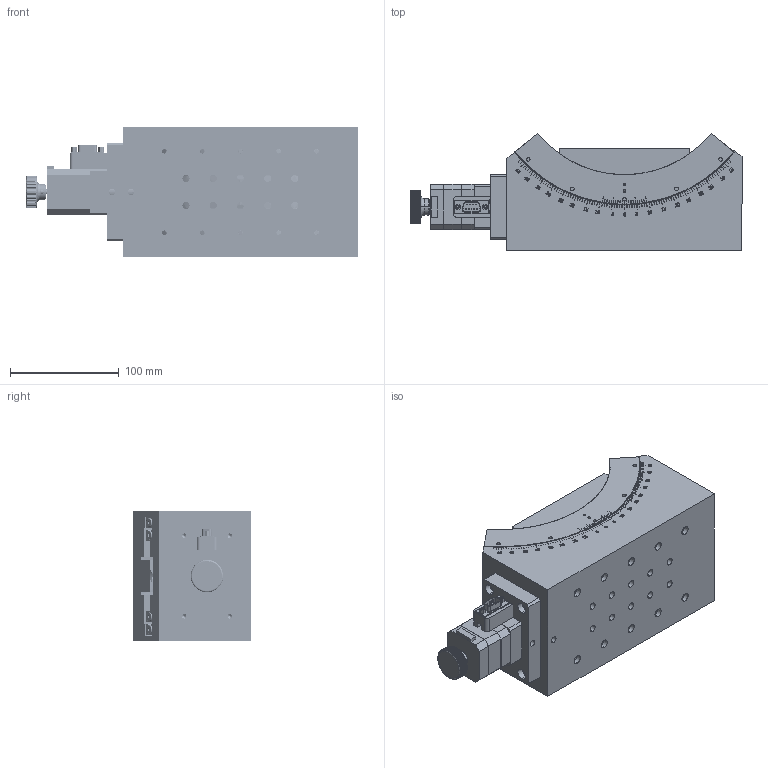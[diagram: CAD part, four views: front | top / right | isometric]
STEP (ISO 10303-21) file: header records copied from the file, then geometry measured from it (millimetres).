
FILE_DESCRIPTION (( 'STEP AP203' ), '1' );
FILE_NAME ('PT-GD216×°Åä.STEP', '2025-09-16T07:55:54', ( '' ), ( '' ), 'SwSTEP 2.0', 'SolidWorks 2023', '' );
FILE_SCHEMA (( 'CONFIG_CONTROL_DESIGN' ));
Length unit declared in the file: millimetre
Products named in the file (20): PT-GD216-03电机座连接板X; 联轴器26-20-5-5; PT-SD216-02台面; PT-GD216装配; PT-SD216-07导轨左; SST43D2046; PT-SD216-08导轨右; PT-SD216-10背母; PT-SD216-01底座; 9针座; PT-SD216-05涡杆; PDV-42电机手轮; PT-SD216-02台面固定环; GB／T 276-94[深沟球轴承629-2Z]; 涡轮250-1; PT-SD216-13轴承座; MVR3螺钉; GB／T 70．1-2000[内六角圆柱头螺钉M3×16]; 9针座螺钉; 电机9针座标准件
Assembly tree (33 placements, depth 2):
  PT-GD216装配
    PT-SD216-01底座
    PT-SD216-02台面
    PT-SD216-05涡杆
    PT-SD216-08导轨右  x2
    PT-SD216-07导轨左  x2
    PT-SD216-13轴承座  x2
    GB／T 276-94[深沟球轴承629-2Z]  x2
    PT-SD216-10背母  x2
    联轴器26-20-5-5
    SST43D2046
    PDV-42电机手轮
    9针座
    MVR3螺钉  x8
    9针座螺钉  x2
    PT-GD216-03电机座连接板X
    电机9针座标准件
    GB／T 70．1-2000[内六角圆柱头螺钉M3×16]  x2
    PT-SD216-02台面固定环
    涡轮250-1
Bounding box: 305 x 107.49 x 120 mm (x, y, z)
Volume: 2058004.3 mm3; surface area: 406900.1 mm2
Topology: 33 solids, 33 shells, 3741 faces, 10422 edges, 6818 vertices
Faces by surface type: plane 1480, cylinder 1122, bspline 664, sphere 178, cone 165, torus 132
Entity records: 156618 total; most frequent: CARTESIAN_POINT 77620, ORIENTED_EDGE 17874, DIRECTION 13049, EDGE_CURVE 8937, VERTEX_POINT 5911, AXIS2_PLACEMENT_3D 4501, VECTOR 4047, LINE 4047
